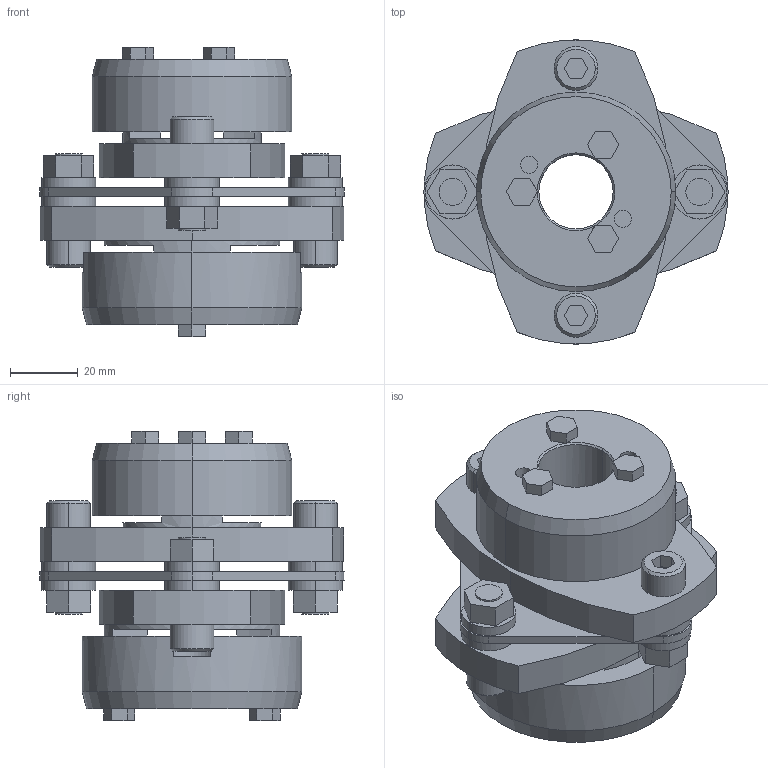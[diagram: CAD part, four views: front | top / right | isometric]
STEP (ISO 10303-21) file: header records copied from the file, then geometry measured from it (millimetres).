
FILE_DESCRIPTION((''),'2;1');
FILE_NAME('LCS-90T7-22×30.stp','2011-09-09T10:01:13',(''),(''),'AutoCAD STEP 2000i','AutoCAD 2000i',', , ');
FILE_SCHEMA(('CONFIG_CONTROL_DESIGN'));
Length unit declared in the file: millimetre
Products named in the file (9): LCS-90T7-19×30; 忣兜1; LC90T7-T030; LC90T7-T025; LC90T7-T019-1; LC90T7-T019; LC90-B019-1; LC90-B019; LCS90-ITA
Assembly tree (8 placements, depth 2):
  LCS-90T7-19×30
    忣兜1
    LC90T7-T030
    LC90T7-T025
    LC90T7-T019-1
    LC90T7-T019
    LC90-B019-1
    LC90-B019
    LCS90-ITA
Bounding box: 90 x 89.94 x 85.5 mm (x, y, z)
Volume: 204768.6 mm3; surface area: 53311.7 mm2
Topology: 1 solids, 1 shells, 232 faces, 574 edges, 374 vertices
Faces by surface type: plane 130, cylinder 82, cone 20
Entity records: 7143 total; most frequent: DIRECTION 1266, CARTESIAN_POINT 1189, ORIENTED_EDGE 1148, EDGE_CURVE 574, AXIS2_PLACEMENT_3D 451, VERTEX_POINT 374, VECTOR 364, LINE 364
